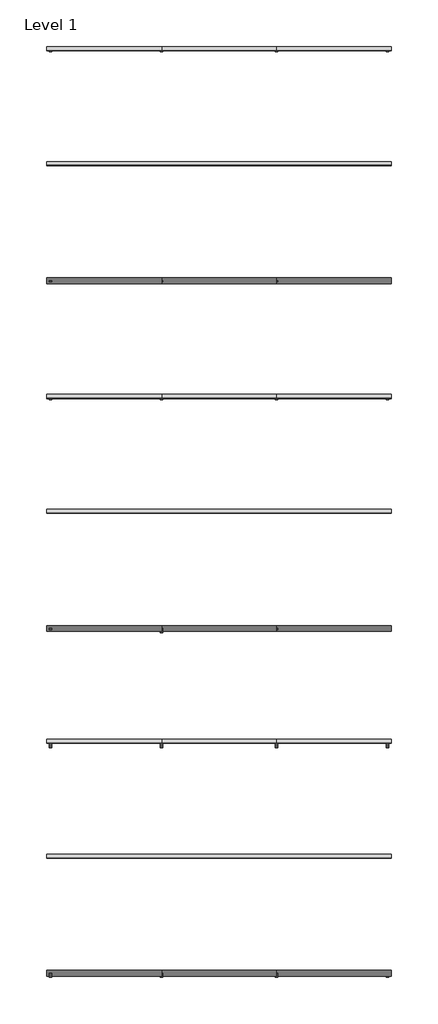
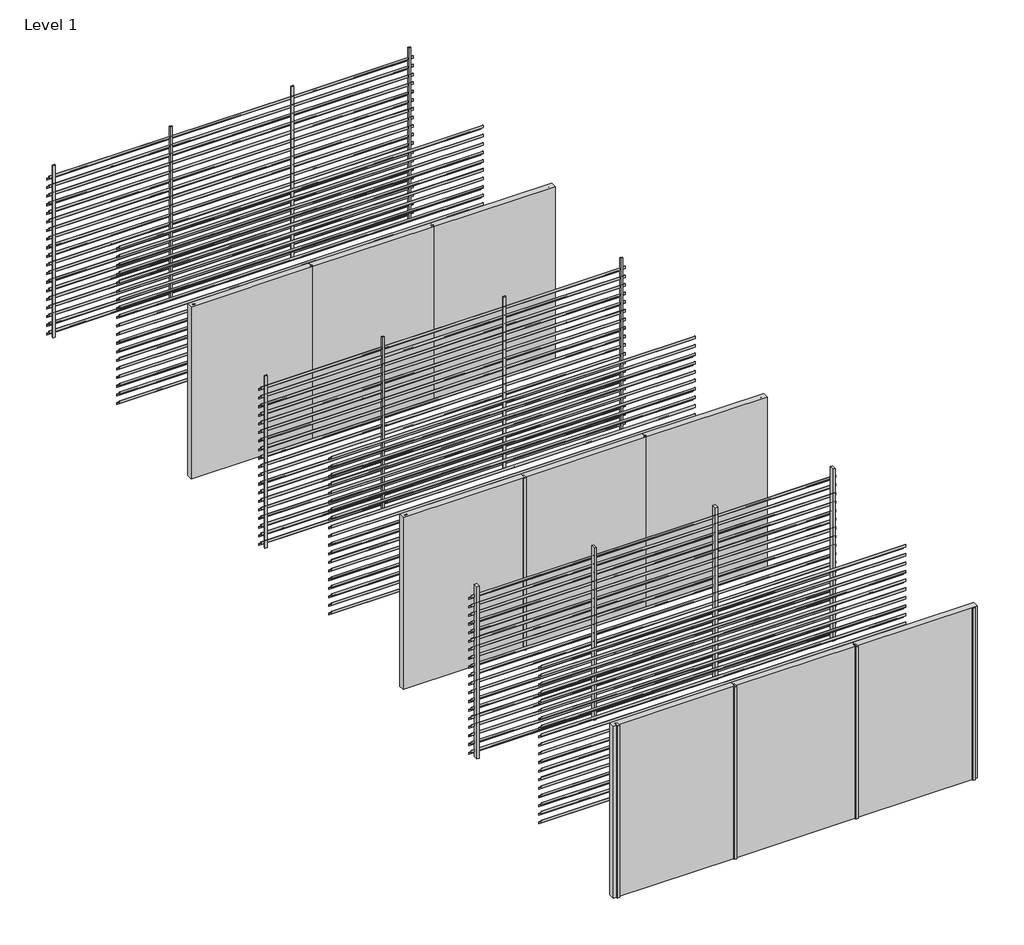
# One storey: 24 members, 21 plates.
"""IFC4 building model written with IfcOpenShell, lengths in millimetres."""

from ifc_helpers import new_model, si_unit, origin, place, context, project, spatial, transform, mapped, element, save
from components import rectangular_mullion_38ebcafd, rectangular_mullion_2b30d03f, rectangular_mullion_a5d3c004, rectangular_mullion_b9a1a312, rectangular_mullion_3da17bfe, rectangular_mullion_3b23135f, empty_system_panel_empty_24b1c33f, screening_70_150_screening_70_150_8df26188, screening_70_150_screening_70_150_33caf40f

model = new_model("IFC4")

# Units and contexts
model_context = context("Model", 3, world=origin())
ifc_project = project(units=[si_unit("LENGTHUNIT", "METRE", prefix="MILLI")], contexts=[model_context])

# Site, building, storey
site = spatial("IfcSite", under=ifc_project)
building = spatial("IfcBuilding", under=site)
storey = spatial("IfcBuildingStorey", under=building, Name="Level 1", Elevation=0.0)

# Members
placement = place(None, origin())
rectangular_mullion_shape = rectangular_mullion_38ebcafd(model_context)
element("IfcMember", 1, ObjectType="Rectangular Mullion : RSen_21_CWM_support profile - 40x21 - left_gen_duco projects", at=placement, inside=storey, context=model_context, shape_type="MappedRepresentation", body=[
    mapped(rectangular_mullion_shape, transform((0.0, 0.0, 0.0), x_axis=(-1.0, 0.0, 0.0), y_axis=(0.0, 1.0, 0.0), z_axis=(0.0, 0.0, -1.0))),
])
element("IfcMember", 2, ObjectType="Rectangular Mullion : RSen_21_CWM_support profile - 40x21 - left_gen_duco projects", at=placement, inside=storey, context=model_context, shape_type="MappedRepresentation", body=[
    mapped(rectangular_mullion_shape, transform((0.0, -4000.0, 0.0), x_axis=(-1.0, 0.0, 0.0), y_axis=(0.0, 1.0, 0.0), z_axis=(0.0, 0.0, -1.0))),
])
rectangular_mullion_2_shape = rectangular_mullion_2b30d03f(model_context)
element("IfcMember", 3, ObjectType="Rectangular Mullion : RSen_21_CWM_support profile - 40x21 - right_gen_duco projects", at=placement, inside=storey, context=model_context, shape_type="MappedRepresentation", body=[
    mapped(rectangular_mullion_2_shape, transform((6000.0, 0.0, 3000.0), x_axis=(1.0, 0.0, 0.0), y_axis=(0.0, 1.0, 0.0), z_axis=(0.0, 0.0, 1.0))),
])
element("IfcMember", 4, ObjectType="Rectangular Mullion : RSen_21_CWM_support profile - 40x21 - right_gen_duco projects", at=placement, inside=storey, context=model_context, shape_type="MappedRepresentation", body=[
    mapped(rectangular_mullion_2_shape, transform((6000.0, -4000.0, 3000.0), x_axis=(1.0, 0.0, 0.0), y_axis=(0.0, 1.0, 0.0), z_axis=(0.0, 0.0, 1.0))),
])
rectangular_mullion_3_shape = rectangular_mullion_a5d3c004(model_context)
element("IfcMember", 5, ObjectType="Rectangular Mullion : RSen_21_CWM_support profile - 40x70-double - left_gen_duco projects", at=placement, inside=storey, context=model_context, shape_type="MappedRepresentation", body=[
    mapped(rectangular_mullion_3_shape, transform((0.0, -6000.0, 0.0), x_axis=(-1.0, 0.0, 0.0), y_axis=(0.0, 1.0, 0.0), z_axis=(0.0, 0.0, -1.0))),
])
element("IfcMember", 6, ObjectType="Rectangular Mullion : RSen_21_CWM_support profile - 40x70-double - left_gen_duco projects", at=placement, inside=storey, context=model_context, shape_type="MappedRepresentation", body=[
    mapped(rectangular_mullion_3_shape, transform((0.0, -10000.0, 0.0), x_axis=(-1.0, 0.0, 0.0), y_axis=(0.0, 1.0, 0.0), z_axis=(0.0, 0.0, -1.0))),
])
rectangular_mullion_4_shape = rectangular_mullion_b9a1a312(model_context)
element("IfcMember", 7, ObjectType="Rectangular Mullion : RSen_21_CWM_support profile - 40x70-double - right_gen_duco projects", at=placement, inside=storey, context=model_context, shape_type="MappedRepresentation", body=[
    mapped(rectangular_mullion_4_shape, transform((6000.0, -6000.0, 3000.0), x_axis=(1.0, 0.0, 0.0), y_axis=(0.0, 1.0, 0.0), z_axis=(0.0, 0.0, 1.0))),
])
element("IfcMember", 8, ObjectType="Rectangular Mullion : RSen_21_CWM_support profile - 40x70-double - right_gen_duco projects", at=placement, inside=storey, context=model_context, shape_type="MappedRepresentation", body=[
    mapped(rectangular_mullion_4_shape, transform((6000.0, -10000.0, 3000.0), x_axis=(1.0, 0.0, 0.0), y_axis=(0.0, 1.0, 0.0), z_axis=(0.0, 0.0, 1.0))),
])
rectangular_mullion_5_shape = rectangular_mullion_3da17bfe(model_context)
element("IfcMember", 9, ObjectType="Rectangular Mullion : RSen_21_CWM_support profile - 40x70-double_gen_duco projects", at=placement, inside=storey, context=model_context, shape_type="MappedRepresentation", body=[
    mapped(rectangular_mullion_5_shape, transform((2000.0, -4000.0, 0.0), x_axis=(-1.0, 0.0, 0.0), y_axis=(0.0, 1.0, 0.0), z_axis=(0.0, 0.0, -1.0))),
])
element("IfcMember", 10, ObjectType="Rectangular Mullion : RSen_21_CWM_support profile - 40x70-double_gen_duco projects", at=placement, inside=storey, context=model_context, shape_type="MappedRepresentation", body=[
    mapped(rectangular_mullion_5_shape, transform((4000.0, -6000.0, 0.0), x_axis=(-1.0, 0.0, 0.0), y_axis=(0.0, 1.0, 0.0), z_axis=(0.0, 0.0, -1.0))),
])
element("IfcMember", 11, ObjectType="Rectangular Mullion : RSen_21_CWM_support profile - 40x70-double_gen_duco projects", at=placement, inside=storey, context=model_context, shape_type="MappedRepresentation", body=[
    mapped(rectangular_mullion_5_shape, transform((2000.0, -6000.0, 0.0), x_axis=(-1.0, 0.0, 0.0), y_axis=(0.0, 1.0, 0.0), z_axis=(0.0, 0.0, -1.0))),
])
element("IfcMember", 12, ObjectType="Rectangular Mullion : RSen_21_CWM_support profile - 40x70-double_gen_duco projects", at=placement, inside=storey, context=model_context, shape_type="MappedRepresentation", body=[
    mapped(rectangular_mullion_5_shape, transform((4000.0, -10000.0, 0.0), x_axis=(-1.0, 0.0, 0.0), y_axis=(0.0, 1.0, 0.0), z_axis=(0.0, 0.0, -1.0))),
])
element("IfcMember", 13, ObjectType="Rectangular Mullion : RSen_21_CWM_support profile - 40x70-double_gen_duco projects", at=placement, inside=storey, context=model_context, shape_type="MappedRepresentation", body=[
    mapped(rectangular_mullion_5_shape, transform((2000.0, -10000.0, 0.0), x_axis=(-1.0, 0.0, 0.0), y_axis=(0.0, 1.0, 0.0), z_axis=(0.0, 0.0, -1.0))),
])
rectangular_mullion_6_shape = rectangular_mullion_3b23135f(model_context)
element("IfcMember", 14, ObjectType="Rectangular Mullion : RSen_21_CWM_support profile - 40x21 - gen_duco projects", at=placement, inside=storey, context=model_context, shape_type="MappedRepresentation", body=[
    mapped(rectangular_mullion_6_shape, transform((4000.0, 0.0, 0.0), x_axis=(-1.0, 0.0, 0.0), y_axis=(0.0, 1.0, 0.0), z_axis=(0.0, 0.0, -1.0))),
])
element("IfcMember", 15, ObjectType="Rectangular Mullion : RSen_21_CWM_support profile - 40x21 - gen_duco projects", at=placement, inside=storey, context=model_context, shape_type="MappedRepresentation", body=[
    mapped(rectangular_mullion_6_shape, transform((2000.0, 0.0, 0.0), x_axis=(-1.0, 0.0, 0.0), y_axis=(0.0, 1.0, 0.0), z_axis=(0.0, 0.0, -1.0))),
])
element("IfcMember", 16, ObjectType="Rectangular Mullion : RSen_21_CWM_support profile - 40x21 - gen_duco projects", at=placement, inside=storey, context=model_context, shape_type="MappedRepresentation", body=[
    mapped(rectangular_mullion_6_shape, transform((4000.0, -4000.0, 0.0), x_axis=(-1.0, 0.0, 0.0), y_axis=(0.0, 1.0, 0.0), z_axis=(0.0, 0.0, -1.0))),
])
element("IfcMember", 17, ObjectType="Rectangular Mullion : RSen_21_CWM_support profile - 40x21-double_gen_duco projects", at=placement, inside=storey, context=model_context, shape_type="MappedRepresentation", body=[
    mapped(rectangular_mullion_6_shape, transform((4000.0, 6050.5, 0.0), x_axis=(-1.0, 0.0, 0.0), y_axis=(0.0, 1.0, 0.0), z_axis=(0.0, 0.0, -1.0))),
])
element("IfcMember", 18, ObjectType="Rectangular Mullion : RSen_21_CWM_support profile - 40x21-double_gen_duco projects", at=placement, inside=storey, context=model_context, shape_type="MappedRepresentation", body=[
    mapped(rectangular_mullion_6_shape, transform((2000.0, 6050.5, 0.0), x_axis=(-1.0, 0.0, 0.0), y_axis=(0.0, 1.0, 0.0), z_axis=(0.0, 0.0, -1.0))),
])
element("IfcMember", 19, ObjectType="Rectangular Mullion : RSen_21_CWM_support profile - 40x21-double_gen_duco projects", at=placement, inside=storey, context=model_context, shape_type="MappedRepresentation", body=[
    mapped(rectangular_mullion_6_shape, transform((4000.0, 2050.5, 0.0), x_axis=(-1.0, 0.0, 0.0), y_axis=(0.0, 1.0, 0.0), z_axis=(0.0, 0.0, -1.0))),
])
element("IfcMember", 20, ObjectType="Rectangular Mullion : RSen_21_CWM_support profile - 40x21-double_gen_duco projects", at=placement, inside=storey, context=model_context, shape_type="MappedRepresentation", body=[
    mapped(rectangular_mullion_6_shape, transform((2000.0, 2050.5, 0.0), x_axis=(-1.0, 0.0, 0.0), y_axis=(0.0, 1.0, 0.0), z_axis=(0.0, 0.0, -1.0))),
])
element("IfcMember", 21, ObjectType="Rectangular Mullion : RSen_21_CWM_support profile - 40x21-double - right_gen_duco projects", at=placement, inside=storey, context=model_context, shape_type="MappedRepresentation", body=[
    mapped(rectangular_mullion_2_shape, transform((6000.0, 6050.5, 3000.0), x_axis=(1.0, 0.0, 0.0), y_axis=(0.0, 1.0, 0.0), z_axis=(0.0, 0.0, 1.0))),
])
element("IfcMember", 22, ObjectType="Rectangular Mullion : RSen_21_CWM_support profile - 40x21-double - right_gen_duco projects", at=placement, inside=storey, context=model_context, shape_type="MappedRepresentation", body=[
    mapped(rectangular_mullion_2_shape, transform((6000.0, 2050.5, 3000.0), x_axis=(1.0, 0.0, 0.0), y_axis=(0.0, 1.0, 0.0), z_axis=(0.0, 0.0, 1.0))),
])
element("IfcMember", 23, ObjectType="Rectangular Mullion : RSen_21_CWM_support profile - 40x21-double - left_gen_duco projects", at=placement, inside=storey, context=model_context, shape_type="MappedRepresentation", body=[
    mapped(rectangular_mullion_shape, transform((0.0, 6050.5, 0.0), x_axis=(-1.0, 0.0, 0.0), y_axis=(0.0, 1.0, 0.0), z_axis=(0.0, 0.0, -1.0))),
])
element("IfcMember", 24, ObjectType="Rectangular Mullion : RSen_21_CWM_support profile - 40x21-double - left_gen_duco projects", at=placement, inside=storey, context=model_context, shape_type="MappedRepresentation", body=[
    mapped(rectangular_mullion_shape, transform((0.0, 2050.5, 0.0), x_axis=(-1.0, 0.0, 0.0), y_axis=(0.0, 1.0, 0.0), z_axis=(0.0, 0.0, -1.0))),
])

# Plates
empty_system_panel_empty_shape = empty_system_panel_empty_24b1c33f(model_context)
element("IfcPlate", 25, ObjectType="Empty System Panel : Empty", at=placement, inside=storey, context=model_context, shape_type="MappedRepresentation", body=[
    mapped(empty_system_panel_empty_shape, transform((5000.0, -4000.0, 0.0), x_axis=(-1.0, 0.0, 0.0), y_axis=(0.0, -1.0, 0.0), z_axis=(0.0, 0.0, 1.0))),
])
element("IfcPlate", 26, ObjectType="Empty System Panel : Empty", at=placement, inside=storey, context=model_context, shape_type="MappedRepresentation", body=[
    mapped(empty_system_panel_empty_shape, transform((5000.0, -10000.0, 0.0), x_axis=(-1.0, 0.0, 0.0), y_axis=(0.0, -1.0, 0.0), z_axis=(0.0, 0.0, 1.0))),
])
element("IfcPlate", 27, ObjectType="Empty System Panel : Empty", at=placement, inside=storey, context=model_context, shape_type="MappedRepresentation", body=[
    mapped(empty_system_panel_empty_shape, transform((3000.0, -4000.0, 0.0), x_axis=(-1.0, 0.0, 0.0), y_axis=(0.0, -1.0, 0.0), z_axis=(0.0, 0.0, 1.0))),
])
element("IfcPlate", 28, ObjectType="Empty System Panel : Empty", at=placement, inside=storey, context=model_context, shape_type="MappedRepresentation", body=[
    mapped(empty_system_panel_empty_shape, transform((1000.0, -4000.0, 0.0), x_axis=(-1.0, 0.0, 0.0), y_axis=(0.0, -1.0, 0.0), z_axis=(0.0, 0.0, 1.0))),
])
element("IfcPlate", 29, ObjectType="Empty System Panel : Empty", at=placement, inside=storey, context=model_context, shape_type="MappedRepresentation", body=[
    mapped(empty_system_panel_empty_shape, transform((3000.0, -10000.0, 0.0), x_axis=(-1.0, 0.0, 0.0), y_axis=(0.0, -1.0, 0.0), z_axis=(0.0, 0.0, 1.0))),
])
element("IfcPlate", 30, ObjectType="Empty System Panel : Empty", at=placement, inside=storey, context=model_context, shape_type="MappedRepresentation", body=[
    mapped(empty_system_panel_empty_shape, transform((1000.0, -10000.0, 0.0), x_axis=(-1.0, 0.0, 0.0), y_axis=(0.0, -1.0, 0.0), z_axis=(0.0, 0.0, 1.0))),
])
element("IfcPlate", 31, ObjectType="Empty System Panel : Empty", at=placement, inside=storey, context=model_context, shape_type="MappedRepresentation", body=[
    mapped(empty_system_panel_empty_shape, transform((5000.0, 2050.5, 0.0), x_axis=(-1.0, 0.0, 0.0), y_axis=(0.0, -1.0, 0.0), z_axis=(0.0, 0.0, 1.0))),
])
element("IfcPlate", 32, ObjectType="Empty System Panel : Empty", at=placement, inside=storey, context=model_context, shape_type="MappedRepresentation", body=[
    mapped(empty_system_panel_empty_shape, transform((3000.0, 2050.5, 0.0), x_axis=(-1.0, 0.0, 0.0), y_axis=(0.0, -1.0, 0.0), z_axis=(0.0, 0.0, 1.0))),
])
element("IfcPlate", 33, ObjectType="Empty System Panel : Empty", at=placement, inside=storey, context=model_context, shape_type="MappedRepresentation", body=[
    mapped(empty_system_panel_empty_shape, transform((1000.0, 2050.5, 0.0), x_axis=(-1.0, 0.0, 0.0), y_axis=(0.0, -1.0, 0.0), z_axis=(0.0, 0.0, 1.0))),
])
screening_70_150_screening_70_150_shape = screening_70_150_screening_70_150_8df26188(model_context)
element("IfcPlate", 34, ObjectType="Screening 70-150 : Screening 70-150", at=placement, inside=storey, context=model_context, shape_type="MappedRepresentation", body=[
    mapped(screening_70_150_screening_70_150_shape, transform((3000.0, -2000.0, 0.0), x_axis=(-1.0, 0.0, 0.0), y_axis=(0.0, -1.0, 0.0), z_axis=(0.0, 0.0, 1.0))),
])
element("IfcPlate", 35, ObjectType="Screening 70-150 : Screening 70-150", at=placement, inside=storey, context=model_context, shape_type="MappedRepresentation", body=[
    mapped(screening_70_150_screening_70_150_shape, transform((3000.0, -8000.0, 0.0), x_axis=(-1.0, 0.0, 0.0), y_axis=(0.0, -1.0, 0.0), z_axis=(0.0, 0.0, 1.0))),
])
element("IfcPlate", 36, ObjectType="Screening 70-150 : Screening 70-150", at=placement, inside=storey, context=model_context, shape_type="MappedRepresentation", body=[
    mapped(screening_70_150_screening_70_150_shape, transform((3000.0, 4050.5, 0.0), x_axis=(-1.0, 0.0, 0.0), y_axis=(0.0, -1.0, 0.0), z_axis=(0.0, 0.0, 1.0))),
])
screening_70_150_screening_70_150_2_shape = screening_70_150_screening_70_150_33caf40f(model_context)
element("IfcPlate", 37, ObjectType="Screening 70-150 : Screening 70-150", at=placement, inside=storey, context=model_context, shape_type="MappedRepresentation", body=[
    mapped(screening_70_150_screening_70_150_2_shape, transform((5000.0, 0.0, 0.0), x_axis=(-1.0, 0.0, 0.0), y_axis=(0.0, -1.0, 0.0), z_axis=(0.0, 0.0, 1.0))),
])
element("IfcPlate", 38, ObjectType="Screening 70-150 : Screening 70-150", at=placement, inside=storey, context=model_context, shape_type="MappedRepresentation", body=[
    mapped(screening_70_150_screening_70_150_2_shape, transform((5000.0, -6000.0, 0.0), x_axis=(-1.0, 0.0, 0.0), y_axis=(0.0, -1.0, 0.0), z_axis=(0.0, 0.0, 1.0))),
])
element("IfcPlate", 39, ObjectType="Screening 70-150 : Screening 70-150", at=placement, inside=storey, context=model_context, shape_type="MappedRepresentation", body=[
    mapped(screening_70_150_screening_70_150_2_shape, transform((3000.0, 0.0, 0.0), x_axis=(-1.0, 0.0, 0.0), y_axis=(0.0, -1.0, 0.0), z_axis=(0.0, 0.0, 1.0))),
])
element("IfcPlate", 40, ObjectType="Screening 70-150 : Screening 70-150", at=placement, inside=storey, context=model_context, shape_type="MappedRepresentation", body=[
    mapped(screening_70_150_screening_70_150_2_shape, transform((1000.0, 0.0, 0.0), x_axis=(-1.0, 0.0, 0.0), y_axis=(0.0, -1.0, 0.0), z_axis=(0.0, 0.0, 1.0))),
])
element("IfcPlate", 41, ObjectType="Screening 70-150 : Screening 70-150", at=placement, inside=storey, context=model_context, shape_type="MappedRepresentation", body=[
    mapped(screening_70_150_screening_70_150_2_shape, transform((3000.0, -6000.0, 0.0), x_axis=(-1.0, 0.0, 0.0), y_axis=(0.0, -1.0, 0.0), z_axis=(0.0, 0.0, 1.0))),
])
element("IfcPlate", 42, ObjectType="Screening 70-150 : Screening 70-150", at=placement, inside=storey, context=model_context, shape_type="MappedRepresentation", body=[
    mapped(screening_70_150_screening_70_150_2_shape, transform((1000.0, -6000.0, 0.0), x_axis=(-1.0, 0.0, 0.0), y_axis=(0.0, -1.0, 0.0), z_axis=(0.0, 0.0, 1.0))),
])
element("IfcPlate", 43, ObjectType="Screening 70-150 : Screening 70-150", at=placement, inside=storey, context=model_context, shape_type="MappedRepresentation", body=[
    mapped(screening_70_150_screening_70_150_2_shape, transform((5000.0, 6050.5, 0.0), x_axis=(-1.0, 0.0, 0.0), y_axis=(0.0, -1.0, 0.0), z_axis=(0.0, 0.0, 1.0))),
])
element("IfcPlate", 44, ObjectType="Screening 70-150 : Screening 70-150", at=placement, inside=storey, context=model_context, shape_type="MappedRepresentation", body=[
    mapped(screening_70_150_screening_70_150_2_shape, transform((3000.0, 6050.5, 0.0), x_axis=(-1.0, 0.0, 0.0), y_axis=(0.0, -1.0, 0.0), z_axis=(0.0, 0.0, 1.0))),
])
element("IfcPlate", 45, ObjectType="Screening 70-150 : Screening 70-150", at=placement, inside=storey, context=model_context, shape_type="MappedRepresentation", body=[
    mapped(screening_70_150_screening_70_150_2_shape, transform((1000.0, 6050.5, 0.0), x_axis=(-1.0, 0.0, 0.0), y_axis=(0.0, -1.0, 0.0), z_axis=(0.0, 0.0, 1.0))),
])

save(model, "model.ifc")
